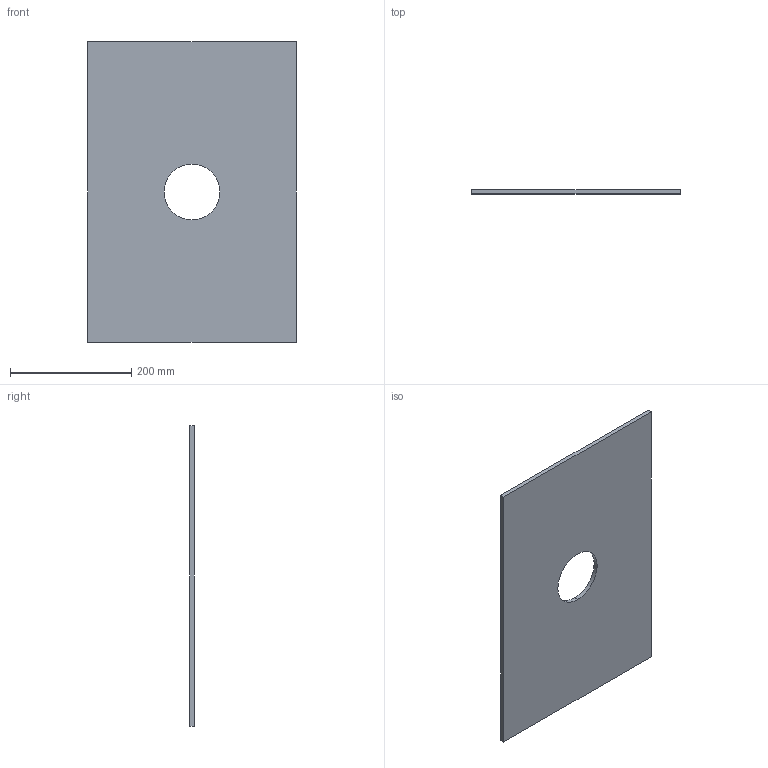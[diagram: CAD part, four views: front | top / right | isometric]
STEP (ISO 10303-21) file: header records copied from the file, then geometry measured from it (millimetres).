
FILE_DESCRIPTION (( 'STEP AP214' ), '1' );
FILE_NAME ('R43_346x496x7_90.STEP', '2016-02-05T20:08:58', ( '' ), ( '' ), 'SwSTEP 2.0', 'SolidWorks 2014', '' );
FILE_SCHEMA (( 'AUTOMOTIVE_DESIGN' ));
Length unit declared in the file: millimetre
Products named in the file (1): R43_346x496x7_90
Bounding box: 344 x 7 x 494 mm (x, y, z)
Volume: 1143523.2 mm3; surface area: 340465.1 mm2
Topology: 1 solids, 1 shells, 8 faces, 18 edges, 12 vertices
Faces by surface type: plane 6, cylinder 2
Entity records: 264 total; most frequent: DIRECTION 40, CARTESIAN_POINT 39, ORIENTED_EDGE 36, EDGE_CURVE 18, VECTOR 14, LINE 14, AXIS2_PLACEMENT_3D 13, VERTEX_POINT 12
